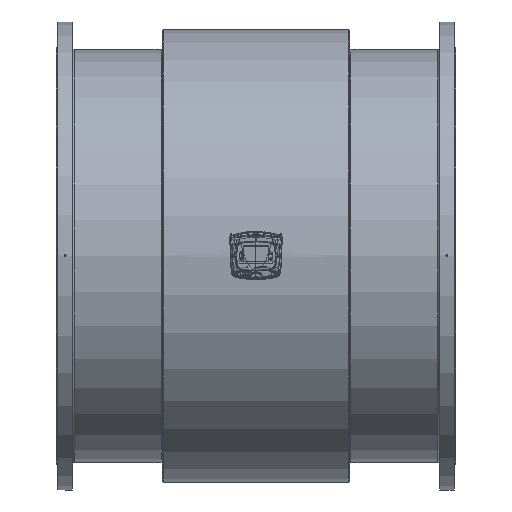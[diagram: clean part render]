
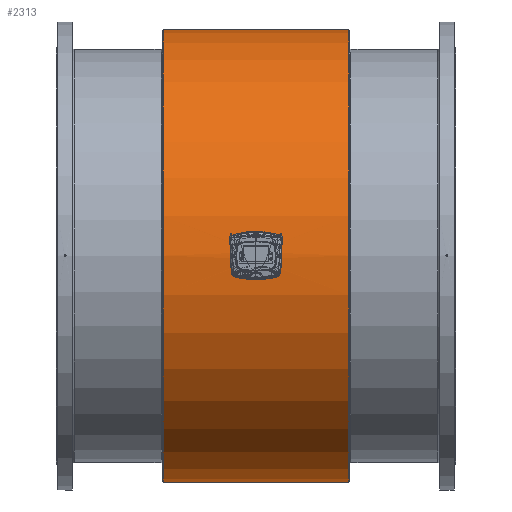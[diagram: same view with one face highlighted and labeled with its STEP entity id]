
A CAD part, top view. The second image highlights one B-rep face of the part: STEP entity #2313.
In plain terms, the highlighted cylindrical face has radius 680 mm (diameter 1360 mm), a full revolution.
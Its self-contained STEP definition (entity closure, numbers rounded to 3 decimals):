
#2248=CARTESIAN_POINT('',(0.,-11.5,679.903));
#2249=VERTEX_POINT('',#2248);
#2259=CARTESIAN_POINT('',(0.,-11.501,679.903));
#2260=CARTESIAN_POINT('',(1.727,-11.501,679.903));
#2261=CARTESIAN_POINT('',(5.179,-10.715,679.917));
#2262=CARTESIAN_POINT('',(9.334,-7.416,679.964));
#2263=CARTESIAN_POINT('',(11.637,-2.646,680.002));
#2264=CARTESIAN_POINT('',(11.637,2.647,680.001));
#2265=CARTESIAN_POINT('',(9.331,7.413,679.964));
#2266=CARTESIAN_POINT('',(4.718,11.087,679.911));
#2267=CARTESIAN_POINT('',(-0.04,11.806,679.897));
#2268=CARTESIAN_POINT('',(-3.415,11.03,679.911));
#2269=CARTESIAN_POINT('',(-6.644,9.776,679.93));
#2270=CARTESIAN_POINT('',(-9.722,6.919,679.97));
#2271=CARTESIAN_POINT('',(-11.634,2.056,680.001));
#2272=CARTESIAN_POINT('',(-11.638,-2.645,680.002));
#2273=CARTESIAN_POINT('',(-9.333,-7.417,679.964));
#2274=CARTESIAN_POINT('',(-5.18,-10.715,679.917));
#2275=CARTESIAN_POINT('',(-1.726,-11.501,679.903));
#2276=CARTESIAN_POINT('',(0.,-11.501,679.903));
#2277=B_SPLINE_CURVE_WITH_KNOTS('',3,(#2259,#2260,#2261,#2262,#2263,#2264,#2265,#2266,#2267,#2268,#2269,#2270,#2271,#2272,#2273,#2274,#2275,#2276),.UNSPECIFIED.,.T.,.U.,(4,1,1,1,1,1,1,1,1,1,1,1,1,1,1,4),(-7.22,-6.704,-6.188,-5.673,-5.157,-4.641,-4.125,-3.438,-3.266,-3.094,-2.407,-2.063,-1.547,-1.031,-0.516,0.0),.UNSPECIFIED.);
#2278=EDGE_CURVE('',#2249,#2249,#2277,.T.);
#2283=CARTESIAN_POINT('',(139.,0.0,0.0));
#2284=DIRECTION('',(1.0,0.0,0.0));
#2285=DIRECTION('',(0.0,1.0,0.0));
#2286=AXIS2_PLACEMENT_3D('',#2283,#2284,#2285);
#2287=CYLINDRICAL_SURFACE('',#2286,680.0);
#2288=CARTESIAN_POINT('',(-278.,680.0,0.0));
#2289=VERTEX_POINT('',#2288);
#2290=CARTESIAN_POINT('',(-278.,0.0,0.0));
#2291=DIRECTION('',(1.0,0.0,0.0));
#2292=DIRECTION('',(0.0,1.0,0.0));
#2293=AXIS2_PLACEMENT_3D('',#2290,#2291,#2292);
#2294=CIRCLE('',#2293,680.0);
#2295=EDGE_CURVE('',#2289,#2289,#2294,.T.);
#2296=ORIENTED_EDGE('',*,*,#2295,.T.);
#2297=EDGE_LOOP('',(#2296));
#2298=FACE_OUTER_BOUND('',#2297,.T.);
#2299=CARTESIAN_POINT('',(278.,680.0,0.0));
#2300=VERTEX_POINT('',#2299);
#2301=CARTESIAN_POINT('',(278.0,0.0,0.0));
#2302=DIRECTION('',(1.0,0.0,0.0));
#2303=DIRECTION('',(0.0,1.0,0.0));
#2304=AXIS2_PLACEMENT_3D('',#2301,#2302,#2303);
#2305=CIRCLE('',#2304,680.0);
#2306=EDGE_CURVE('',#2300,#2300,#2305,.T.);
#2307=ORIENTED_EDGE('',*,*,#2306,.F.);
#2308=EDGE_LOOP('',(#2307));
#2309=FACE_BOUND('',#2308,.T.);
#2310=ORIENTED_EDGE('',*,*,#2278,.F.);
#2311=EDGE_LOOP('',(#2310));
#2312=FACE_BOUND('',#2311,.T.);
#2313=ADVANCED_FACE('',(#2298,#2309,#2312),#2287,.T.);
